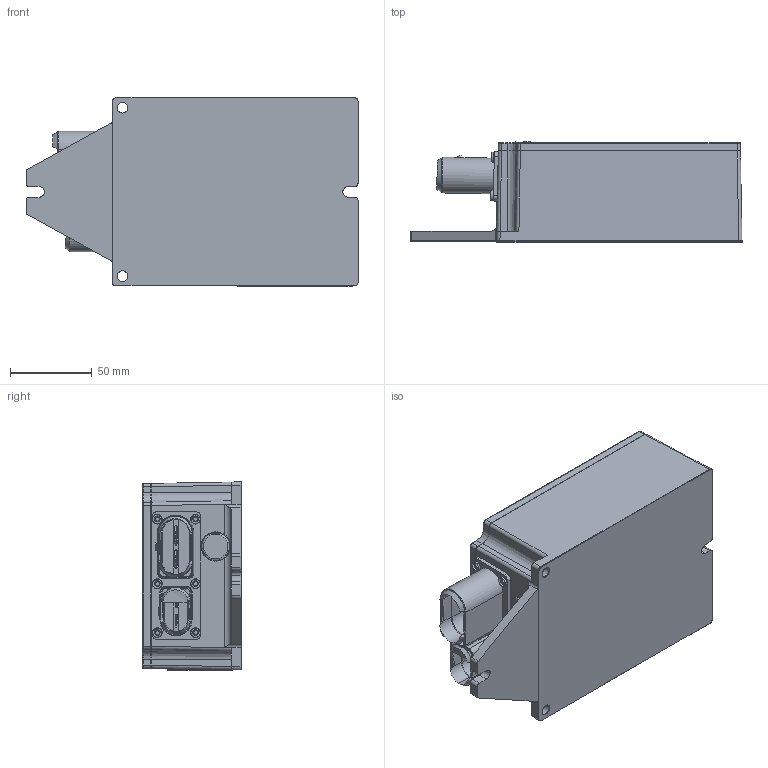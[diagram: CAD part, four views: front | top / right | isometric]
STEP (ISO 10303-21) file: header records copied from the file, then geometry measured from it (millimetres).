
FILE_DESCRIPTION (( 'STEP AP214' ), '1' );
FILE_NAME ('RMOD400-28-13SW_3D_20220614.stp', '2022-06-14T13:03:49', ( '' ), ( '' ), 'SwSTEP 2.0', 'SolidWorks 2020', '' );
FILE_SCHEMA (( 'AUTOMOTIVE_DESIGN' ));
Length unit declared in the file: millimetre
Products named in the file (1): RMOD400-28-13SW_3D_20220614
Bounding box: 203 x 61 x 115.1 mm (x, y, z)
Surface area: 218540.8 mm2 (no closed solid volume)
Topology: 0 solids, 31 shells, 1596 faces, 3983 edges, 2482 vertices
Faces by surface type: plane 631, cylinder 561, torus 179, cone 160, bspline 63, sphere 2
Entity records: 70254 total; most frequent: CARTESIAN_POINT 14278, DIRECTION 8129, ORIENTED_EDGE 7906, EDGE_CURVE 3959, AXIS2_PLACEMENT_3D 3007, VERTEX_POINT 2470, LINE 2115, VECTOR 2115
